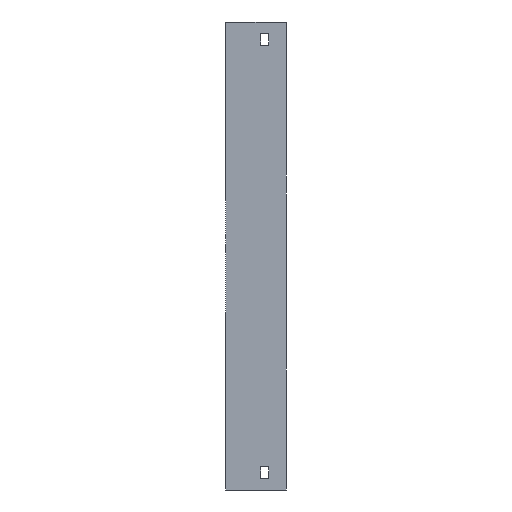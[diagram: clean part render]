
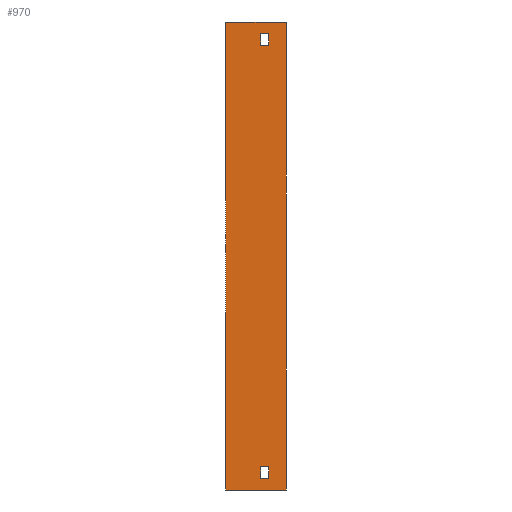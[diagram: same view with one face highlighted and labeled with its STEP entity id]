
A CAD part, left-side view. The second image highlights one B-rep face of the part: STEP entity #970.
In plain terms, the highlighted planar face has unit normal (-1, 0, 0).
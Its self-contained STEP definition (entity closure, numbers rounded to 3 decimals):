
#11 = VERTEX_POINT ( 'NONE', #1864 ) ;
#12 = VECTOR ( 'NONE', #1742, 1000. ) ;
#33 = ORIENTED_EDGE ( 'NONE', *, *, #1537, .T. ) ;
#38 = LINE ( 'NONE', #1682, #484 ) ;
#39 = ORIENTED_EDGE ( 'NONE', *, *, #1641, .T. ) ;
#53 = EDGE_CURVE ( 'NONE', #1563, #1790, #1214, .T. ) ;
#70 = EDGE_CURVE ( 'NONE', #1919, #578, #1070, .T. ) ;
#78 = VECTOR ( 'NONE', #710, 1000. ) ;
#89 = DIRECTION ( 'NONE',  ( 0., 0., 1. ) ) ;
#98 = ORIENTED_EDGE ( 'NONE', *, *, #70, .F. ) ;
#119 = CARTESIAN_POINT ( 'NONE',  ( -204., 15., 40. ) ) ;
#141 = VECTOR ( 'NONE', #89, 1000. ) ;
#157 = EDGE_CURVE ( 'NONE', #1056, #11, #446, .T. ) ;
#161 = DIRECTION ( 'NONE',  ( 0., 0., 1. ) ) ;
#183 = ORIENTED_EDGE ( 'NONE', *, *, #329, .F. ) ;
#199 = VECTOR ( 'NONE', #1302, 1000. ) ;
#205 = LINE ( 'NONE', #539, #1539 ) ;
#241 = CARTESIAN_POINT ( 'NONE',  ( -204., 52., 50. ) ) ;
#266 = CARTESIAN_POINT ( 'NONE',  ( -204., 22., -344. ) ) ;
#274 = ORIENTED_EDGE ( 'NONE', *, *, #594, .F. ) ;
#289 = LINE ( 'NONE', #1915, #199 ) ;
#299 = CARTESIAN_POINT ( 'NONE',  ( -204., 22., 40. ) ) ;
#329 = EDGE_CURVE ( 'NONE', #1179, #1871, #1022, .T. ) ;
#352 = DIRECTION ( 'NONE',  ( 0., 1., 0. ) ) ;
#372 = CARTESIAN_POINT ( 'NONE',  ( -204., 15., -334. ) ) ;
#400 = DIRECTION ( 'NONE',  ( 0., 1., 0. ) ) ;
#446 = LINE ( 'NONE', #299, #1416 ) ;
#470 = EDGE_LOOP ( 'NONE', ( #33, #183, #1045, #1267 ) ) ;
#484 = VECTOR ( 'NONE', #352, 1000. ) ;
#514 = ORIENTED_EDGE ( 'NONE', *, *, #53, .F. ) ;
#539 = CARTESIAN_POINT ( 'NONE',  ( -204., 22., 40. ) ) ;
#558 = LINE ( 'NONE', #119, #607 ) ;
#569 = CARTESIAN_POINT ( 'NONE',  ( -204., 22., 30. ) ) ;
#573 = CARTESIAN_POINT ( 'NONE',  ( -204., 52., 50. ) ) ;
#578 = VERTEX_POINT ( 'NONE', #999 ) ;
#594 = EDGE_CURVE ( 'NONE', #578, #1563, #1774, .T. ) ;
#607 = VECTOR ( 'NONE', #1902, 1000. ) ;
#613 = FACE_OUTER_BOUND ( 'NONE', #470, .T. ) ;
#614 = CARTESIAN_POINT ( 'NONE',  ( -204., 22., -344. ) ) ;
#666 = LINE ( 'NONE', #1870, #141 ) ;
#710 = DIRECTION ( 'NONE',  ( 0., -1., 0. ) ) ;
#745 = VERTEX_POINT ( 'NONE', #1194 ) ;
#781 = DIRECTION ( 'NONE',  ( 0., 0., -1. ) ) ;
#854 = CARTESIAN_POINT ( 'NONE',  ( -204., 0., 50. ) ) ;
#859 = EDGE_CURVE ( 'NONE', #11, #1463, #558, .T. ) ;
#860 = ORIENTED_EDGE ( 'NONE', *, *, #859, .T. ) ;
#881 = ORIENTED_EDGE ( 'NONE', *, *, #1140, .T. ) ;
#886 = CARTESIAN_POINT ( 'NONE',  ( -204., 15., -344. ) ) ;
#905 = VERTEX_POINT ( 'NONE', #569 ) ;
#933 = CARTESIAN_POINT ( 'NONE',  ( -204., 52., -354. ) ) ;
#950 = VECTOR ( 'NONE', #161, 1000. ) ;
#970 = ADVANCED_FACE ( 'NONE', ( #613, #1213, #1825 ), #1374, .F. ) ;
#988 = CARTESIAN_POINT ( 'NONE',  ( -204., 22., 40. ) ) ;
#999 = CARTESIAN_POINT ( 'NONE',  ( -204., 22., -344. ) ) ;
#1010 = CARTESIAN_POINT ( 'NONE',  ( -204., 52., -354. ) ) ;
#1022 = LINE ( 'NONE', #573, #1630 ) ;
#1027 = DIRECTION ( 'NONE',  ( 0., -1., 0. ) ) ;
#1032 = DIRECTION ( 'NONE',  ( 0., -1., 0. ) ) ;
#1045 = ORIENTED_EDGE ( 'NONE', *, *, #1370, .F. ) ;
#1056 = VERTEX_POINT ( 'NONE', #988 ) ;
#1070 = LINE ( 'NONE', #614, #1290 ) ;
#1140 = EDGE_CURVE ( 'NONE', #905, #1056, #205, .T. ) ;
#1179 = VERTEX_POINT ( 'NONE', #241 ) ;
#1194 = CARTESIAN_POINT ( 'NONE',  ( -204., 52., -354. ) ) ;
#1213 = FACE_BOUND ( 'NONE', #1635, .T. ) ;
#1214 = LINE ( 'NONE', #886, #950 ) ;
#1223 = CARTESIAN_POINT ( 'NONE',  ( -204., 0., -354. ) ) ;
#1225 = CARTESIAN_POINT ( 'NONE',  ( -204., 15., 30. ) ) ;
#1230 = ORIENTED_EDGE ( 'NONE', *, *, #157, .T. ) ;
#1243 = DIRECTION ( 'NONE',  ( 1., 0., 0. ) ) ;
#1267 = ORIENTED_EDGE ( 'NONE', *, *, #1427, .T. ) ;
#1290 = VECTOR ( 'NONE', #1473, 1000. ) ;
#1302 = DIRECTION ( 'NONE',  ( 0., 0., 1. ) ) ;
#1370 = EDGE_CURVE ( 'NONE', #745, #1179, #289, .T. ) ;
#1374 = PLANE ( 'NONE',  #1633 ) ;
#1416 = VECTOR ( 'NONE', #1027, 1000. ) ;
#1427 = EDGE_CURVE ( 'NONE', #745, #1681, #1776, .T. ) ;
#1463 = VERTEX_POINT ( 'NONE', #1225 ) ;
#1473 = DIRECTION ( 'NONE',  ( 0., 0., -1. ) ) ;
#1537 = EDGE_CURVE ( 'NONE', #1681, #1871, #666, .T. ) ;
#1539 = VECTOR ( 'NONE', #1710, 1000. ) ;
#1554 = CARTESIAN_POINT ( 'NONE',  ( -204., 15., -344. ) ) ;
#1563 = VERTEX_POINT ( 'NONE', #1554 ) ;
#1587 = CARTESIAN_POINT ( 'NONE',  ( -204., 22., -334. ) ) ;
#1610 = EDGE_LOOP ( 'NONE', ( #274, #98, #1940, #514 ) ) ;
#1622 = LINE ( 'NONE', #1747, #1924 ) ;
#1630 = VECTOR ( 'NONE', #1032, 1000. ) ;
#1633 = AXIS2_PLACEMENT_3D ( 'NONE', #933, #1243, #781 ) ;
#1635 = EDGE_LOOP ( 'NONE', ( #881, #1230, #860, #39 ) ) ;
#1641 = EDGE_CURVE ( 'NONE', #1463, #905, #1622, .T. ) ;
#1681 = VERTEX_POINT ( 'NONE', #1223 ) ;
#1682 = CARTESIAN_POINT ( 'NONE',  ( -204., 22., -334. ) ) ;
#1710 = DIRECTION ( 'NONE',  ( 0., 0., 1. ) ) ;
#1717 = EDGE_CURVE ( 'NONE', #1790, #1919, #38, .T. ) ;
#1742 = DIRECTION ( 'NONE',  ( 0., -1., 0. ) ) ;
#1747 = CARTESIAN_POINT ( 'NONE',  ( -204., 22., 30. ) ) ;
#1774 = LINE ( 'NONE', #266, #12 ) ;
#1776 = LINE ( 'NONE', #1010, #78 ) ;
#1790 = VERTEX_POINT ( 'NONE', #372 ) ;
#1825 = FACE_BOUND ( 'NONE', #1610, .T. ) ;
#1864 = CARTESIAN_POINT ( 'NONE',  ( -204., 15., 40. ) ) ;
#1870 = CARTESIAN_POINT ( 'NONE',  ( -204., 0., -354. ) ) ;
#1871 = VERTEX_POINT ( 'NONE', #854 ) ;
#1902 = DIRECTION ( 'NONE',  ( 0., 0., -1. ) ) ;
#1915 = CARTESIAN_POINT ( 'NONE',  ( -204., 52., -354. ) ) ;
#1919 = VERTEX_POINT ( 'NONE', #1587 ) ;
#1924 = VECTOR ( 'NONE', #400, 1000. ) ;
#1940 = ORIENTED_EDGE ( 'NONE', *, *, #1717, .F. ) ;
